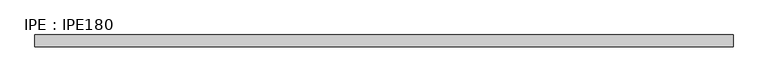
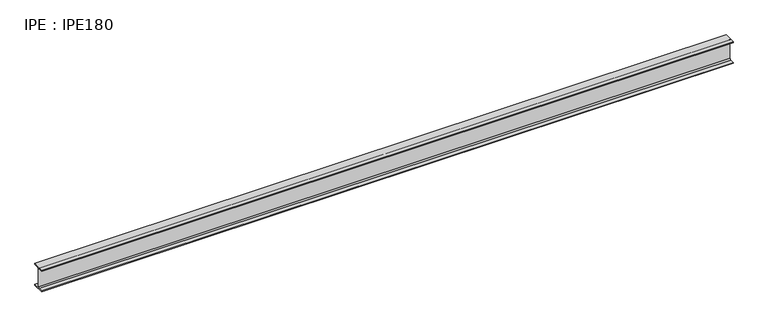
"""IFC4 building model written with IfcOpenShell, lengths in millimetres: beam geometry, IPE : IPE180."""

from ifc_helpers import new_model, si_unit, point, frame, frame_2d, origin, place, context, project, spatial, polyline, circle_curve, trimmed, segment, composite_curve, outline, extrude, source, transform, mapped, element, save


def ipe_ipe180_47fa68d9(model_context):
    return source(origin(), model_context, "Body", "SweptSolid", [
        extrude(outline(composite_curve([segment(polyline([(45.5, -82.0), (45.5, -90.0), (-45.5, -90.0), (-45.5, -82.0), (-11.65, -82.0)]), True, "CONTINUOUS"), segment(trimmed(circle_curve(frame_2d((-11.65, -73.0)), 9.0), [point((-11.65, -82.0))], [point((-2.65, -73.0))], True, "CARTESIAN"), True, "CONTINUOUS"), segment(polyline([(-2.65, -73.0), (-2.65, 73.0)]), True, "CONTINUOUS"), segment(trimmed(circle_curve(frame_2d((-11.65, 73.0)), 9.0), [point((-2.65, 73.0))], [point((-11.65, 82.0))], True, "CARTESIAN"), True, "CONTINUOUS"), segment(polyline([(-11.65, 82.0), (-45.5, 82.0), (-45.5, 90.0), (45.5, 90.0), (45.5, 82.0), (11.65, 82.0)]), True, "CONTINUOUS"), segment(trimmed(circle_curve(frame_2d((11.65, 73.0)), 9.0), [point((11.65, 82.0))], [point((2.65, 73.0))], True, "CARTESIAN"), True, "CONTINUOUS"), segment(polyline([(2.65, 73.0), (2.65, -73.0)]), True, "CONTINUOUS"), segment(trimmed(circle_curve(frame_2d((11.65, -73.0)), 9.0), [point((2.65, -73.0))], [point((11.65, -82.0))], True, "CARTESIAN"), True, "CONTINUOUS"), segment(polyline([(11.65, -82.0), (45.5, -82.0)]), True, "CONTINUOUS")], self_intersect=False)), frame((-2699.1874078, 0.0, 0.0), z_axis=(1.0, 0.0, 0.0), x_axis=(0.0, 1.0, 0.0)), (0.0, 0.0, 1.0), 5382.1299251),
    ])


if __name__ == "__main__":
    model = new_model("IFC4")
    model_context = context("Model", 3, world=origin())
    ifc_project = project(units=[si_unit("LENGTHUNIT", "METRE", prefix="MILLI")], contexts=[model_context])
    site = spatial("IfcSite", under=ifc_project)
    building = spatial("IfcBuilding", under=site)
    placement = place(None, origin())
    ipe_ipe180_shape = ipe_ipe180_47fa68d9(model_context)
    element("IfcBeam", 1, ObjectType="IPE : IPE180", at=placement, inside=building, context=model_context, shape_type="MappedRepresentation", body=[
        mapped(ipe_ipe180_shape, transform((0.0, 0.0, 0.0), x_axis=(1.0, 0.0, 0.0), y_axis=(0.0, 1.0, 0.0), z_axis=(0.0, 0.0, 1.0))),
    ])
    save(model, "model.ifc")
